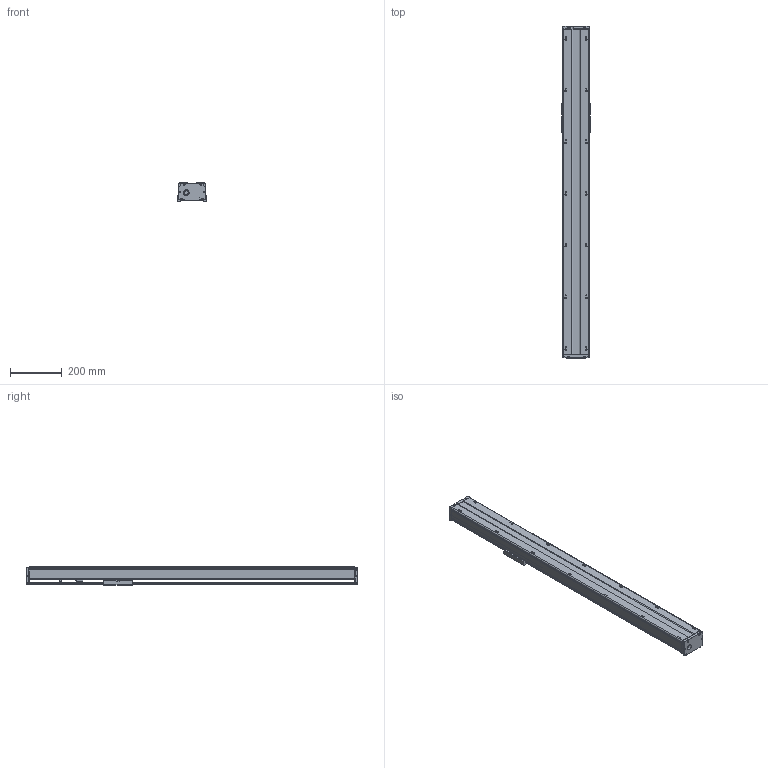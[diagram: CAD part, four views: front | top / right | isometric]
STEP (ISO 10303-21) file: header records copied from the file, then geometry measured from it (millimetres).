
FILE_DESCRIPTION(/* description */ (''),/* implementation_level */ '2;1');
FILE_NAME(/* name */ 'TKA100-900A1FI_asm1.stp',/* time_stamp */ '2017-02-21T09:01:32+08:00',/* author */ (''),/* organization */ (''),/* preprocessor_version */ 'ST-DEVELOPER v15',/* originating_system */ 'SIEMENS PLM Software NX 8.5',/* authorisation */ '');
FILE_SCHEMA (('AUTOMOTIVE_DESIGN { 1 0 10303 214 3 1 1 1 }'));
Length unit declared in the file: millimetre
Products named in the file (3): 200-02; 200-01; TKA100-900A1FI_asm1_stp
Assembly tree (2 placements, depth 2):
  TKA100-900A1FI_asm1_stp
    200-01
    200-02
Bounding box: 110 x 1284 x 71 mm (x, y, z)
Volume: 2625634.1 mm3; surface area: 857111.6 mm2
Topology: 2 solids, 9 shells, 869 faces, 2250 edges, 1427 vertices
Faces by surface type: plane 361, cylinder 297, cone 151, torus 34, bspline 26
Full cylindrical faces by diameter (mm): 2.5 x4, 2.6 x8, 3.3 x8, 3.4 x4, 3.8 x4, 4.2 x23, 4.3 x4, 4.5 x4, 5 x1, 5.5 x26, 6.6 x4, 8 x5, 9 x4, 10 x14, 11 x4, 12 x7, 15.3 x1, 16 x1, 22 x1, 24 x1, 28 x5, 30 x1
Entity records: 30828 total; most frequent: CARTESIAN_POINT 10632, DIRECTION 4196, ORIENTED_EDGE 3906, EDGE_CURVE 1953, AXIS2_PLACEMENT_3D 1626, VERTEX_POINT 1348, EDGE_LOOP 1175, LINE 944
